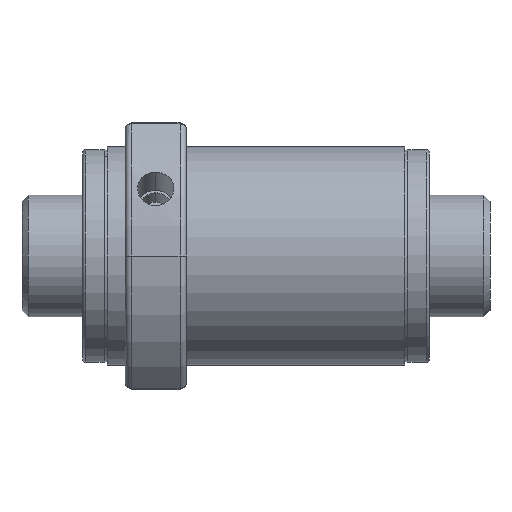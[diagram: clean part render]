
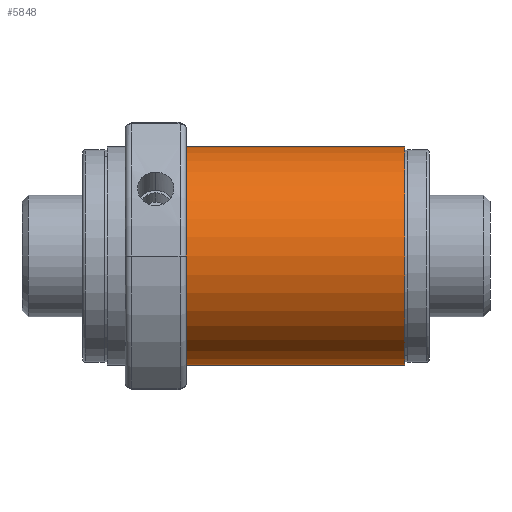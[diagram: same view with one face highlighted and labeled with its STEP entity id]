
A CAD part, front view. The second image highlights one B-rep face of the part: STEP entity #5848.
In plain terms, the highlighted cylindrical face has radius 18 mm (diameter 36 mm), a partial arc.
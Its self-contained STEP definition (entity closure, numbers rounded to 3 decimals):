
#186 = LINE ( 'NONE', #3665, #3876 ) ;
#726 = VERTEX_POINT ( 'NONE', #5288 ) ;
#1220 = EDGE_CURVE ( 'NONE', #726, #6411, #6650, .T. ) ;
#1241 = AXIS2_PLACEMENT_3D ( 'NONE', #1742, #5863, #4133 ) ;
#1429 = CARTESIAN_POINT ( 'NONE',  ( 17., 0., 0. ) ) ;
#1742 = CARTESIAN_POINT ( 'NONE',  ( 0., 0., 0. ) ) ;
#1772 = CARTESIAN_POINT ( 'NONE',  ( 53., 0., -18. ) ) ;
#1922 = EDGE_CURVE ( 'NONE', #4107, #6411, #3963, .T. ) ;
#2106 = EDGE_CURVE ( 'NONE', #6574, #4107, #186, .T. ) ;
#2142 = ORIENTED_EDGE ( 'NONE', *, *, #3508, .F. ) ;
#2294 = DIRECTION ( 'NONE',  ( 0., 0., -1. ) ) ;
#2343 = DIRECTION ( 'NONE',  ( 1., 0., 0. ) ) ;
#2509 = DIRECTION ( 'NONE',  ( -1., 0., 0. ) ) ;
#3414 = ORIENTED_EDGE ( 'NONE', *, *, #1220, .T. ) ;
#3487 = ORIENTED_EDGE ( 'NONE', *, *, #1922, .F. ) ;
#3508 = EDGE_CURVE ( 'NONE', #726, #6574, #4831, .T. ) ;
#3665 = CARTESIAN_POINT ( 'NONE',  ( 0., 0., -18. ) ) ;
#3726 = DIRECTION ( 'NONE',  ( 0., -1., 0. ) ) ;
#3803 = VECTOR ( 'NONE', #2509, 1000. ) ;
#3832 = CARTESIAN_POINT ( 'NONE',  ( 17., 0., 18. ) ) ;
#3876 = VECTOR ( 'NONE', #5379, 1000. ) ;
#3963 = CIRCLE ( 'NONE', #5854, 18. ) ;
#4107 = VERTEX_POINT ( 'NONE', #6399 ) ;
#4133 = DIRECTION ( 'NONE',  ( 0., 0., 1. ) ) ;
#4351 = EDGE_LOOP ( 'NONE', ( #6672, #2142, #3414, #3487 ) ) ;
#4831 = CIRCLE ( 'NONE', #6217, 18. ) ;
#5148 = FACE_OUTER_BOUND ( 'NONE', #4351, .T. ) ;
#5288 = CARTESIAN_POINT ( 'NONE',  ( 53., 0., 18. ) ) ;
#5379 = DIRECTION ( 'NONE',  ( -1., 0., 0. ) ) ;
#5848 = ADVANCED_FACE ( 'NONE', ( #5148 ), #7188, .T. ) ;
#5854 = AXIS2_PLACEMENT_3D ( 'NONE', #1429, #6529, #3726 ) ;
#5863 = DIRECTION ( 'NONE',  ( -1., 0., 0. ) ) ;
#5929 = CARTESIAN_POINT ( 'NONE',  ( 0., 0., 18. ) ) ;
#6206 = CARTESIAN_POINT ( 'NONE',  ( 53., 0., 0. ) ) ;
#6217 = AXIS2_PLACEMENT_3D ( 'NONE', #6206, #2343, #2294 ) ;
#6399 = CARTESIAN_POINT ( 'NONE',  ( 17., 0., -18. ) ) ;
#6411 = VERTEX_POINT ( 'NONE', #3832 ) ;
#6529 = DIRECTION ( 'NONE',  ( -1., 0., 0. ) ) ;
#6574 = VERTEX_POINT ( 'NONE', #1772 ) ;
#6650 = LINE ( 'NONE', #5929, #3803 ) ;
#6672 = ORIENTED_EDGE ( 'NONE', *, *, #2106, .F. ) ;
#7188 = CYLINDRICAL_SURFACE ( 'NONE', #1241, 18. ) ;
